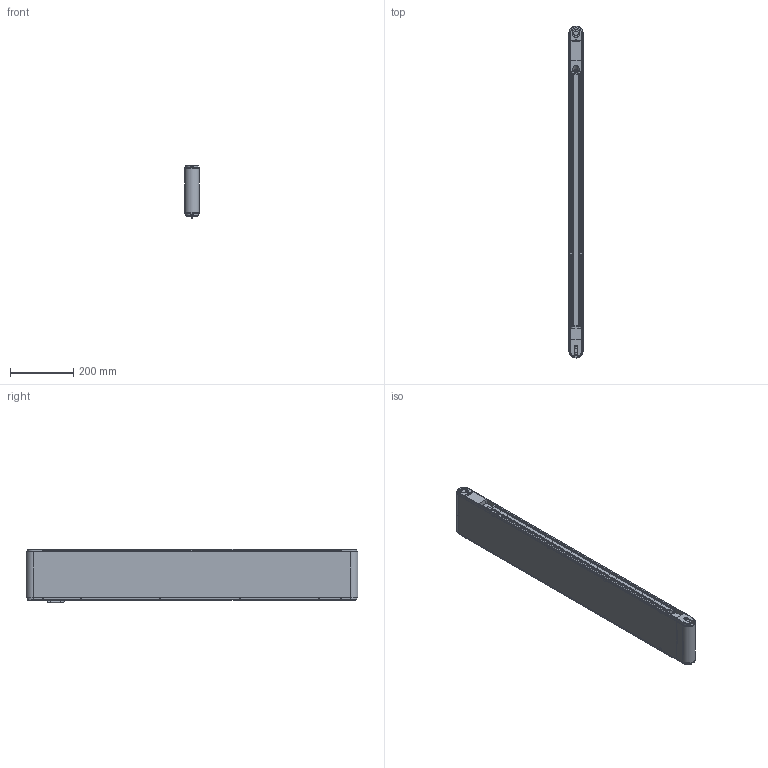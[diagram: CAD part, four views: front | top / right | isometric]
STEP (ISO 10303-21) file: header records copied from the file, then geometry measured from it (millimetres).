
FILE_DESCRIPTION(/* description */ (''),/* implementation_level */ '2;1');
FILE_NAME(/* name */ 'G:\DATEN\CAD\Förderband\Marketing\3D-Modelle (Standard)\FR-40-160\FR-40-160-1000-K.stp',/* time_stamp */ '2019-05-08T09:09:31+02:00',/* author */ ('melanie.ochs'),/* organization */ (''),/* preprocessor_version */ 'ST-DEVELOPER v17',/* originating_system */ 'Autodesk Inventor 2019',/* authorisation */ '');
FILE_SCHEMA (('CONFIG_CONTROL_DESIGN'));
Length unit declared in the file: centimetre
Products named in the file (1): FR-40-160-1000-K
Bounding box: 46.6 x 1046.6 x 168.53 mm (x, y, z)
Volume: 2567862 mm3; surface area: 1191110.7 mm2
Topology: 6 solids, 25 shells, 1008 faces, 2750 edges, 1835 vertices
Faces by surface type: plane 515, cylinder 280, bspline 122, cone 66, torus 25
Full cylindrical faces by diameter (mm): 2 x2, 4 x6, 4.3 x4, 4.917 x1, 5 x11, 5.5 x8, 6 x4, 6.5 x1, 6.647 x3, 8 x4, 8.3 x8, 8.5 x8, 8.773 x1, 10 x1, 11 x1, 12 x5, 15 x2, 20 x4, 25 x2, 28 x4
Entity records: 34370 total; most frequent: CARTESIAN_POINT 8153, ORIENTED_EDGE 5470, DIRECTION 4952, EDGE_CURVE 2735, VERTEX_POINT 1835, AXIS2_PLACEMENT_3D 1722, LINE 1508, VECTOR 1508
